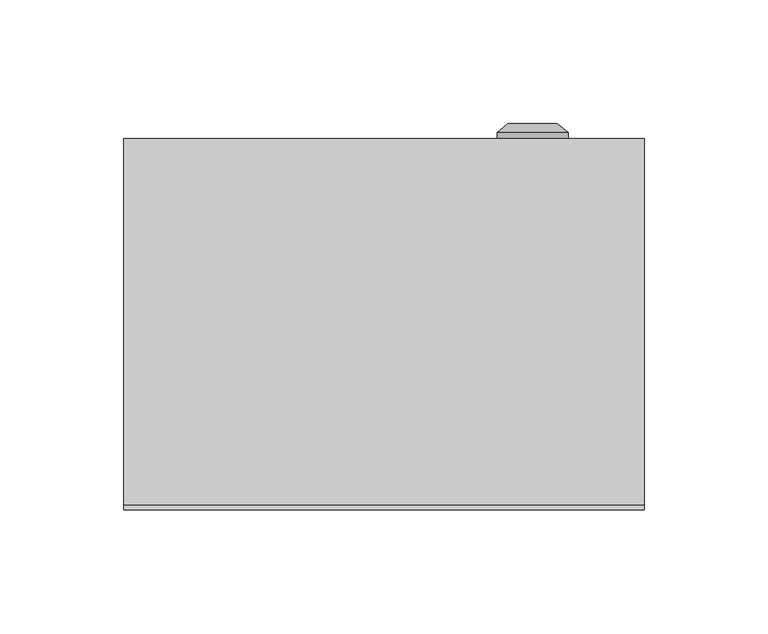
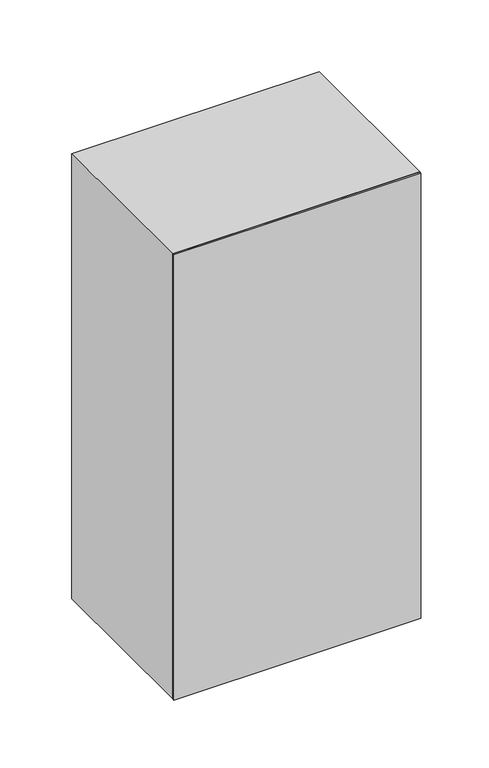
"""IFC4 building model written with IfcOpenShell, lengths in millimetres: proxy geometry, ЩМП : ЩМП-4.2.1-0_400х210х150."""

from ifc_helpers import new_model, si_unit, frame, origin, origin_with_axes, place, context, project, spatial, polyline, circle_curve, outline, extrude, source, transform, mapped, element, save
from ifc_brep_helpers import plane_surface, cylinder_surface, revolved_surface, advanced_brep


def electrical_equipment_94533aea(model_context):
    return source(origin(), model_context, "Body", "SolidModel", [
        advanced_brep(
        [(45.669873, 150.0, 200.0), (74.330127, 150.0, 200.0), (60.0, 150.0, 200.0), (45.669873, 152.366592, 200.0), (74.330127, 152.366592, 200.0), (50.0, 156.0, 200.0), (70.0, 156.0, 200.0), (58.1080471, 156.0, 200.0), (61.8919529, 156.0, 200.0), (58.1080471, 154.9822294, 200.0), (61.8919529, 154.9822294, 200.0), (60.0, 154.9822294, 200.0)],
        [
            (0, 1, circle_curve(frame((60.0, 150.0, 200.0), z_axis=(0.0, -1.0, 0.0), x_axis=(1.0, 0.0, 0.0)), 14.330127)),
            (1, 2),
            (2, 0),
            (1, 0, circle_curve(frame((60.0, 150.0, 200.0), z_axis=(0.0, -1.0, 0.0), x_axis=(1.0, 0.0, 0.0)), 14.330127)),
            (3, 4, circle_curve(frame((60.0, 152.366592, 200.0), z_axis=(0.0, -1.0, 0.0), x_axis=(1.0, 0.0, 0.0)), 14.330127)),
            (4, 1),
            (0, 3),
            (4, 3, circle_curve(frame((60.0, 152.366592, 200.0), z_axis=(0.0, -1.0, 0.0), x_axis=(1.0, 0.0, 0.0)), 14.330127)),
            (5, 6, circle_curve(frame((60.0, 156.0, 200.0), z_axis=(0.0, -1.0, 0.0), x_axis=(1.0, 0.0, 0.0)), 10.0)),
            (6, 4),
            (3, 5),
            (6, 5, circle_curve(frame((60.0, 156.0, 200.0), z_axis=(0.0, -1.0, 0.0), x_axis=(1.0, 0.0, 0.0)), 10.0)),
            (7, 8, circle_curve(frame((60.0, 156.0, 200.0), z_axis=(0.0, -1.0, 0.0), x_axis=(1.0, 0.0, 0.0)), 1.8919529)),
            (8, 6),
            (5, 7),
            (8, 7, circle_curve(frame((60.0, 156.0, 200.0), z_axis=(0.0, -1.0, 0.0), x_axis=(1.0, 0.0, 0.0)), 1.8919529)),
            (9, 10, circle_curve(frame((60.0, 154.9822294, 200.0), z_axis=(0.0, -1.0, 0.0), x_axis=(1.0, 0.0, 0.0)), 1.8919529)),
            (10, 8),
            (7, 9),
            (10, 9, circle_curve(frame((60.0, 154.9822294, 200.0), z_axis=(0.0, -1.0, 0.0), x_axis=(1.0, 0.0, 0.0)), 1.8919529)),
            (11, 10),
            (9, 11),
        ],
        [
            plane_surface(frame((60.0, 150.0, 200.0), z_axis=(0.0, -1.0, 0.0), x_axis=(1.0, 0.0, 0.0))),
            cylinder_surface(frame((60.0, 163.1348851, 200.0), z_axis=(0.0, 1.0, 0.0), x_axis=(1.0, 0.0, 0.0)), 14.330127),
            revolved_surface(polyline([(74.330127, 152.366592, 200.0), (70.0, 156.0, 200.0)]), (60.0, 163.1348851, 200.0), (0.0, 1.0, 0.0)),
            plane_surface(frame((60.0, 156.0, 200.0), z_axis=(0.0, 1.0, 0.0), x_axis=(1.0, 0.0, 0.0))),
            revolved_surface(polyline([(61.8919529, 156.0, 200.0), (61.8919529, 154.9822294, 200.0)]), (60.0, 163.1348851, 200.0), (0.0, 1.0, 0.0)),
            plane_surface(frame((60.0, 154.9822294, 200.0), z_axis=(0.0, 1.0, 0.0), x_axis=(1.0, 0.0, 0.0))),
        ],
        [
            (0, [[1, 2, 3]]),
            (0, [[4, -3, -2]]),
            (1, [[5, 6, -1, 7]]),
            (1, [[8, -7, -4, -6]]),
            (2, [[9, 10, -5, 11]]),
            (2, [[12, -11, -8, -10]]),
            (3, [[13, 14, -9, 15]]),
            (3, [[16, -15, -12, -14]]),
            (4, [[17, 18, -13, 19]]),
            (4, [[20, -19, -16, -18]]),
            (5, [[21, -17, 22]]),
            (5, [[-22, -20, -21]]),
        ],
    ),
        extrude(outline(polyline([(86.5, 125.0), (-86.5, 125.0), (-86.5, 150.0), (86.5, 150.0), (86.5, 125.0)])), frame((0.0, 0.0, 18.5), z_axis=(0.0, 0.0, 1.0), x_axis=(1.0, 0.0, 0.0)), (0.0, 0.0, 1.0), 363.0),
        extrude(outline(polyline([(400.0, -105.0033905), (0.0, -105.0033905), (0.0, 104.9966095), (400.0, 104.9966095), (400.0, -105.0033905)]), holes=[polyline([(365.0, -70.0033905), (365.0, 69.9966095), (35.0, 69.9966095), (35.0, -70.0033905), (365.0, -70.0033905)])]), frame((0.0, 2.0, 0.0), z_axis=(0.0, 1.0, 0.0), x_axis=(0.0, 0.0, 1.0)), (0.0, 0.0, 1.0), 148.0),
        extrude(outline(polyline([(105.0, 0.0), (-105.0, 0.0), (-105.0, 2.0), (105.0, 2.0), (105.0, 0.0)])), origin_with_axes(), (0.0, 0.0, 1.0), 400.0),
    ])


if __name__ == "__main__":
    model = new_model("IFC4")
    model_context = context("Model", 3, world=origin())
    ifc_project = project(units=[si_unit("LENGTHUNIT", "METRE", prefix="MILLI")], contexts=[model_context])
    site = spatial("IfcSite", under=ifc_project)
    building = spatial("IfcBuilding", under=site)
    placement = place(None, origin())
    electrical_equipment_shape = electrical_equipment_94533aea(model_context)
    element("IfcBuildingElementProxy", 1, Name="ЩМП : ЩМП-4.2.1-0_400х210х150", ObjectType="ЩМП : ЩМП-4.2.1-0_400х210х150", at=placement, inside=building, context=model_context, shape_type="MappedRepresentation", body=[
        mapped(electrical_equipment_shape, transform((0.0, 0.0, 0.0), x_axis=(1.0, 0.0, 0.0), y_axis=(0.0, 1.0, 0.0), z_axis=(0.0, 0.0, 1.0))),
    ])
    save(model, "model.ifc")
